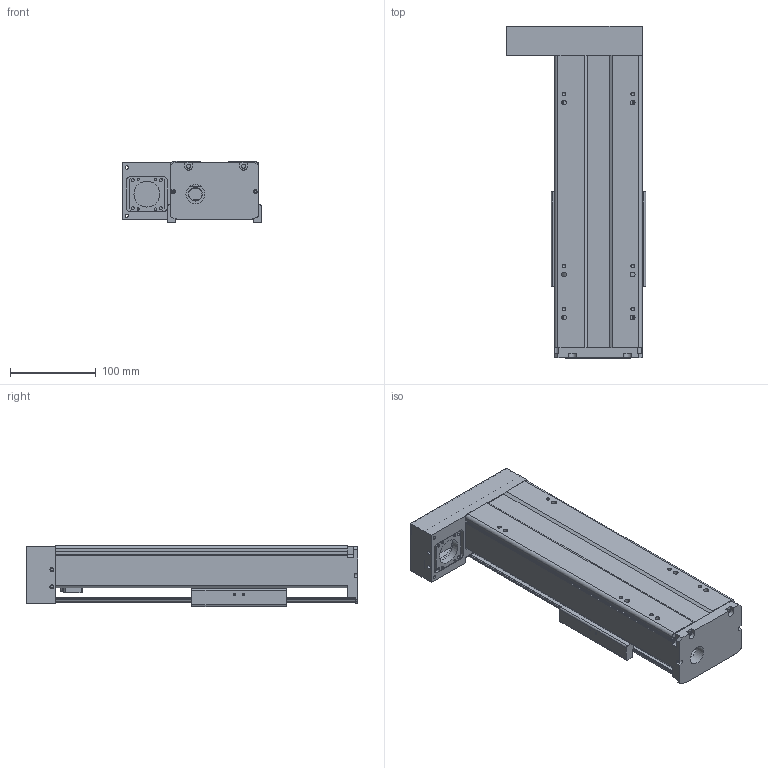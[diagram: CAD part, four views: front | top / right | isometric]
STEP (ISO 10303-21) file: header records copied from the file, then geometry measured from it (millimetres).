
FILE_DESCRIPTION(/* description */ (''),/* implementation_level */ '2;1');
FILE_NAME(/* name */ 'TKA100-FL-150_asm1.stp',/* time_stamp */ '2016-05-17T14:39:17+08:00',/* author */ (''),/* organization */ (''),/* preprocessor_version */ 'ST-DEVELOPER v15',/* originating_system */ 'SIEMENS PLM Software NX 8.5',/* authorisation */ '');
FILE_SCHEMA (('AUTOMOTIVE_DESIGN { 1 0 10303 214 3 1 1 1 }'));
Length unit declared in the file: millimetre
Products named in the file (3): 200-2; 200-1; TKA100-FL-150_asm1
Assembly tree (2 placements, depth 2):
  TKA100-FL-150_asm1
    200-1
    200-2
Bounding box: 162 x 386 x 71 mm (x, y, z)
Volume: 1056361.4 mm3; surface area: 363350.7 mm2
Topology: 2 solids, 16 shells, 776 faces, 2010 edges, 1306 vertices
Faces by surface type: plane 315, cylinder 290, cone 117, torus 28, bspline 26
Full cylindrical faces by diameter (mm): 2.5 x6, 2.6 x8, 3.3 x11, 3.4 x4, 3.8 x8, 4.2 x15, 4.3 x4, 4.5 x10, 5 x2, 5.5 x14, 6.6 x4, 8 x4, 9 x6, 10 x4, 11 x4, 12 x6, 15.3 x1, 16 x1, 22 x1, 24 x1, 28 x2, 30 x1, 33 x1
Entity records: 28634 total; most frequent: CARTESIAN_POINT 10552, DIRECTION 3701, ORIENTED_EDGE 3536, EDGE_CURVE 1768, AXIS2_PLACEMENT_3D 1451, VERTEX_POINT 1244, EDGE_LOOP 1057, LINE 799
